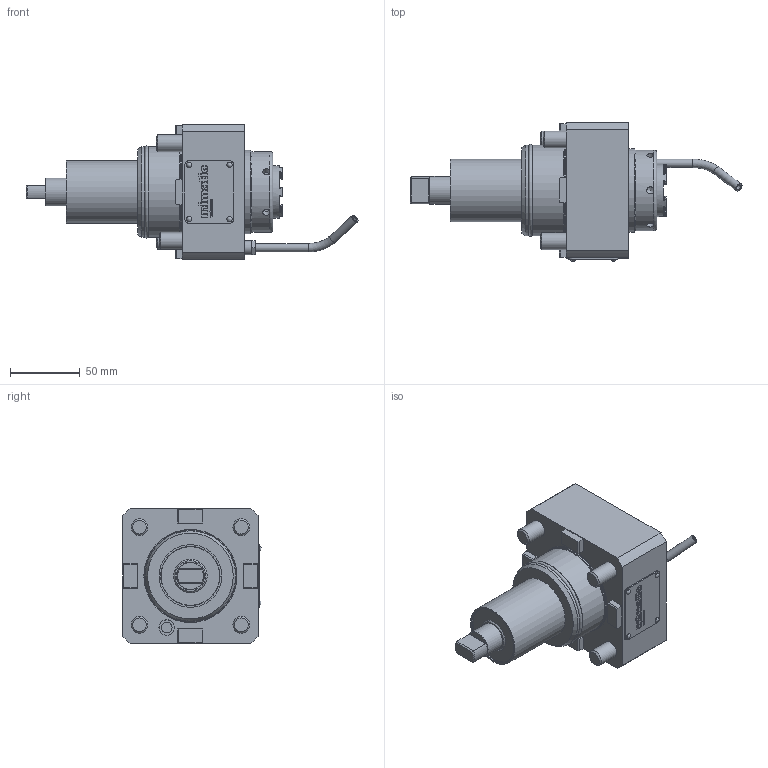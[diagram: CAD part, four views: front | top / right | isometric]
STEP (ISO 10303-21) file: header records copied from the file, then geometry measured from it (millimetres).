
FILE_DESCRIPTION(/* description */ (''),/* implementation_level */ '2;1');
FILE_NAME(/* name */ 'A186490',/* time_stamp */ '2020-05-25T14:50:32+02:00',/* author */ (''),/* organization */ (''),/* preprocessor_version */ 'ST-DEVELOPER v16.5',/* originating_system */ 'HiCAD 2017 2201.0 Build 268',/* authorisation */ '');
FILE_SCHEMA (('AUTOMOTIVE_DESIGN { 1 0 10303 214 1 1 1 1 }'));
Length unit declared in the file: millimetre
Products named in the file (6): Root; A186490_AGW-DO-A-65-ER32-I; GEWINDE
Assembly tree (5 placements, depth 3):
  Root
    A186490_AGW-DO-A-65-ER32-I
      GEWINDE
      GEWINDE
      GEWINDE
      GEWINDE
Bounding box: 238.17 x 99.29 x 97 mm (x, y, z)
Volume: 637964.4 mm3; surface area: 88501 mm2
Topology: 6 solids, 12 shells, 695 faces, 1756 edges, 1146 vertices
Faces by surface type: plane 394, cylinder 182, cone 50, bspline 38, torus 27, sphere 4
Full cylindrical faces by diameter (mm): 2 x4, 2.2 x4, 3 x8, 4 x2, 5.1 x6, 6 x2, 7.65 x1, 9.853 x8, 10 x1, 11.01 x1, 11.1 x1, 12 x4, 12.5 x2, 18 x4, 19 x2, 20 x3, 22 x4, 22.4 x2, 23.5 x1, 24 x2, 27 x3, 29.4 x1, 37.5 x1, 38 x1, 40 x2, 40.5 x1, 42 x1, 45 x1, 50 x1, 56 x1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
Entity records: 44863 total; most frequent: CARTESIAN_POINT 11150, PRESENTATION_STYLE_ASSIGNMENT 3504, OVER_RIDING_STYLED_ITEM 3499, COLOUR_RGB 3104, DRAUGHTING_PRE_DEFINED_CURVE_FONT 3096, CURVE_STYLE 3096, ORIENTED_EDGE 3096, DIRECTION 3086
